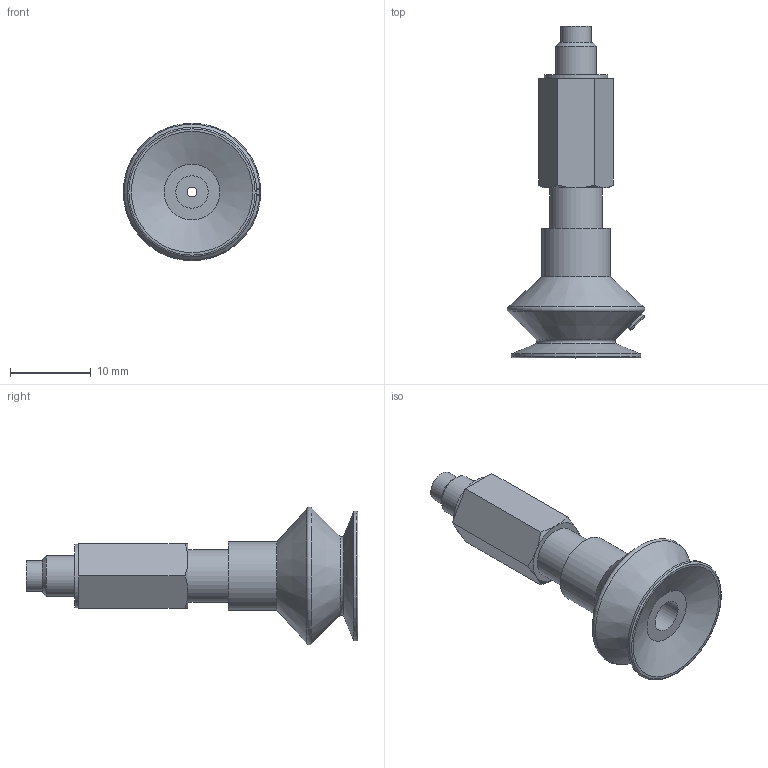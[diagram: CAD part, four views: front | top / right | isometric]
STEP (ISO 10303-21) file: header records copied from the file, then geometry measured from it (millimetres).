
FILE_DESCRIPTION(('STEP AP203'),'1');
FILE_NAME('.stp','2025-04-01T06:17:22',(' '),(' '),'Spatial InterOp 3D',' ',' ');
FILE_SCHEMA(('CONFIG_CONTROL_DESIGN'));
Length unit declared in the file: millimetre
Products named in the file (6): BPSS-L5-BPBG-15A-※; PSS-15A-L5-M; PSS-15A-L5-F; BPBG-15A-※; __27; BPBG-15A
Assembly tree (5 placements, depth 3):
  BPSS-L5-BPBG-15A-※
    PSS-15A-L5-M
    PSS-15A-L5-F
    BPBG-15A-※
      __27
      BPBG-15A
Bounding box: 17 x 41 x 17 mm (x, y, z)
Volume: 2365.7 mm3; surface area: 2651.4 mm2
Topology: 4 solids, 4 shells, 70 faces, 141 edges, 90 vertices
Faces by surface type: plane 23, cylinder 16, cone 15, bspline 8, torus 8
Full cylindrical faces by diameter (mm): 1.2 x1, 2.4 x2, 3.4 x1, 3.8 x1, 4 x3, 5 x1, 6 x2, 6.5 x2, 7.8 x1, 8.5 x1, 16 x1
Entity records: 3031 total; most frequent: CARTESIAN_POINT 1465, DIRECTION 265, ORIENTED_EDGE 204, AXIS2_PLACEMENT_3D 123, EDGE_LOOP 117, EDGE_CURVE 102, FACE_OUTER_BOUND 94, VERTEX_POINT 81
